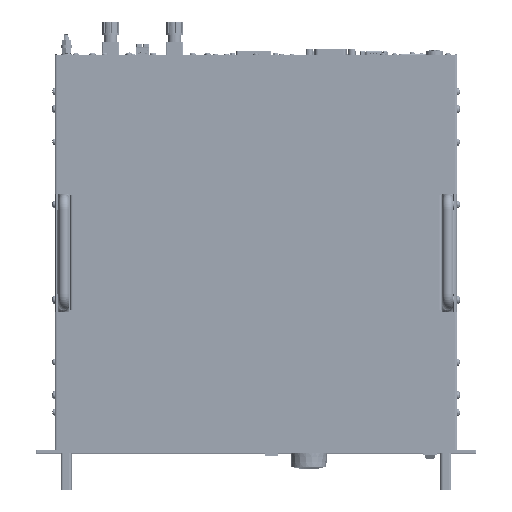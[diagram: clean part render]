
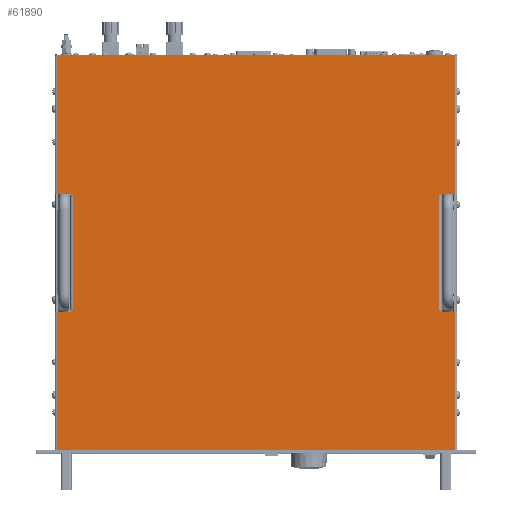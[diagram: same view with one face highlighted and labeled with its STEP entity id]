
A CAD part, top view. The second image highlights one B-rep face of the part: STEP entity #61890.
In plain terms, the highlighted planar face has unit normal (0, 0, 1).
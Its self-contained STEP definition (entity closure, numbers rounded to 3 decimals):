
#61890=ADVANCED_FACE('',(#127787),#127788,.F.);
#127787=FACE_OUTER_BOUND('',#229705,.T.);
#127788=PLANE('',#229706);
#229705=EDGE_LOOP('',(#402301,#402302,#402303,#402304,#402305,#402306,#402307,#402308,#402309,#402310,#402311,#402312,#402313,#402314,#402315,#402316,#402317,#402318,#402319,#402320));
#229706=AXIS2_PLACEMENT_3D('',#402321,#402322,#402323);
#402301=ORIENTED_EDGE('',*,*,#495634,.T.);
#402302=ORIENTED_EDGE('',*,*,#495654,.F.);
#402303=ORIENTED_EDGE('',*,*,#495655,.F.);
#402304=ORIENTED_EDGE('',*,*,#495298,.F.);
#402305=ORIENTED_EDGE('',*,*,#495620,.F.);
#402306=ORIENTED_EDGE('',*,*,#495283,.F.);
#402307=ORIENTED_EDGE('',*,*,#495609,.F.);
#402308=ORIENTED_EDGE('',*,*,#495656,.F.);
#402309=ORIENTED_EDGE('',*,*,#495652,.T.);
#402310=ORIENTED_EDGE('',*,*,#495647,.F.);
#402311=ORIENTED_EDGE('',*,*,#495644,.T.);
#402312=ORIENTED_EDGE('',*,*,#495657,.F.);
#402313=ORIENTED_EDGE('',*,*,#495585,.F.);
#402314=ORIENTED_EDGE('',*,*,#495273,.F.);
#402315=ORIENTED_EDGE('',*,*,#495574,.F.);
#402316=ORIENTED_EDGE('',*,*,#495293,.F.);
#402317=ORIENTED_EDGE('',*,*,#495658,.F.);
#402318=ORIENTED_EDGE('',*,*,#495659,.F.);
#402319=ORIENTED_EDGE('',*,*,#495631,.T.);
#402320=ORIENTED_EDGE('',*,*,#495639,.T.);
#402321=CARTESIAN_POINT('',(239.8,220.125,86.465));
#402322=DIRECTION('',(0.,0.,-1.0));
#402323=DIRECTION('',(1.0,0.,0.));
#495273=EDGE_CURVE('',#600099,#600101,#600102,.T.);
#495283=EDGE_CURVE('',#600117,#600119,#600120,.T.);
#495293=EDGE_CURVE('',#600135,#600137,#600138,.T.);
#495298=EDGE_CURVE('',#600144,#600146,#600147,.T.);
#495574=EDGE_CURVE('',#600137,#600099,#600577,.T.);
#495585=EDGE_CURVE('',#600101,#600592,#600593,.T.);
#495609=EDGE_CURVE('',#600625,#600117,#600627,.T.);
#495620=EDGE_CURVE('',#600119,#600144,#600642,.T.);
#495631=EDGE_CURVE('',#600653,#600656,#600658,.T.);
#495634=EDGE_CURVE('',#600663,#600660,#600664,.T.);
#495639=EDGE_CURVE('',#600656,#600663,#600669,.T.);
#495644=EDGE_CURVE('',#600675,#600673,#600676,.T.);
#495647=EDGE_CURVE('',#600675,#600679,#600680,.T.);
#495652=EDGE_CURVE('',#600685,#600679,#600687,.T.);
#495654=EDGE_CURVE('',#600689,#600660,#600690,.T.);
#495655=EDGE_CURVE('',#600146,#600689,#600691,.T.);
#495656=EDGE_CURVE('',#600685,#600625,#600692,.T.);
#495657=EDGE_CURVE('',#600592,#600673,#600693,.T.);
#495658=EDGE_CURVE('',#600694,#600135,#600695,.T.);
#495659=EDGE_CURVE('',#600653,#600694,#600696,.T.);
#600099=VERTEX_POINT('',#747108);
#600101=VERTEX_POINT('',#747110);
#600102=LINE('',#747111,#747112);
#600117=VERTEX_POINT('',#747130);
#600119=VERTEX_POINT('',#747132);
#600120=LINE('',#747133,#747134);
#600135=VERTEX_POINT('',#747152);
#600137=VERTEX_POINT('',#747154);
#600138=LINE('',#747155,#747156);
#600144=VERTEX_POINT('',#747163);
#600146=VERTEX_POINT('',#747165);
#600147=LINE('',#747166,#747167);
#600577=LINE('',#747718,#747719);
#600592=VERTEX_POINT('',#747739);
#600593=LINE('',#747740,#747741);
#600625=VERTEX_POINT('',#747787);
#600627=LINE('',#747790,#747791);
#600642=LINE('',#747811,#747812);
#600653=VERTEX_POINT('',#747827);
#600656=VERTEX_POINT('',#747831);
#600658=LINE('',#747833,#747834);
#600660=VERTEX_POINT('',#747836);
#600663=VERTEX_POINT('',#747840);
#600664=LINE('',#747841,#747842);
#600669=LINE('',#747847,#747848);
#600673=VERTEX_POINT('',#747853);
#600675=VERTEX_POINT('',#747856);
#600676=LINE('',#747857,#747858);
#600679=VERTEX_POINT('',#747861);
#600680=LINE('',#747862,#747863);
#600685=VERTEX_POINT('',#747868);
#600687=LINE('',#747871,#747872);
#600689=VERTEX_POINT('',#747874);
#600690=LINE('',#747875,#747876);
#600691=LINE('',#747877,#747878);
#600692=LINE('',#747879,#747880);
#600693=LINE('',#747881,#747882);
#600694=VERTEX_POINT('',#747883);
#600695=LINE('',#747884,#747885);
#600696=LINE('',#747886,#747887);
#747108=CARTESIAN_POINT('',(22.123,3.5,86.465));
#747110=CARTESIAN_POINT('',(22.123,155.5,86.465));
#747111=CARTESIAN_POINT('',(22.123,149.813,86.465));
#747112=VECTOR('',#849581,1.0);
#747130=CARTESIAN_POINT('',(22.123,284.75,86.465));
#747132=CARTESIAN_POINT('',(22.123,436.75,86.465));
#747133=CARTESIAN_POINT('',(22.123,290.438,86.465));
#747134=VECTOR('',#849597,1.0);
#747152=CARTESIAN_POINT('',(457.477,155.5,86.465));
#747154=CARTESIAN_POINT('',(457.477,3.5,86.465));
#747155=CARTESIAN_POINT('',(457.477,149.813,86.465));
#747156=VECTOR('',#849613,1.0);
#747163=CARTESIAN_POINT('',(457.477,436.75,86.465));
#747165=CARTESIAN_POINT('',(457.477,284.75,86.465));
#747166=CARTESIAN_POINT('',(457.477,290.438,86.465));
#747167=VECTOR('',#849621,1.0);
#747718=CARTESIAN_POINT('',(460.227,3.5,86.465));
#747719=VECTOR('',#850007,1.0);
#747739=CARTESIAN_POINT('',(37.373,155.5,86.465));
#747740=CARTESIAN_POINT('',(19.373,155.5,86.465));
#747741=VECTOR('',#850025,1.0);
#747787=CARTESIAN_POINT('',(37.373,284.75,86.465));
#747790=CARTESIAN_POINT('',(37.373,284.75,86.465));
#747791=VECTOR('',#850053,1.0);
#747811=CARTESIAN_POINT('',(19.373,436.75,86.465));
#747812=VECTOR('',#850071,1.0);
#747827=CARTESIAN_POINT('',(442.227,157.5,86.465));
#747831=CARTESIAN_POINT('',(440.477,157.5,86.465));
#747833=CARTESIAN_POINT('',(341.093,157.5,86.465));
#747834=VECTOR('',#850083,1.0);
#747836=CARTESIAN_POINT('',(442.227,282.75,86.465));
#747840=CARTESIAN_POINT('',(440.477,282.75,86.465));
#747841=CARTESIAN_POINT('',(341.093,282.75,86.465));
#747842=VECTOR('',#850085,1.0);
#747847=CARTESIAN_POINT('',(440.477,220.125,86.465));
#747848=VECTOR('',#850095,1.0);
#747853=CARTESIAN_POINT('',(37.373,157.5,86.465));
#747856=CARTESIAN_POINT('',(39.123,157.5,86.465));
#747857=CARTESIAN_POINT('',(138.507,157.5,86.465));
#747858=VECTOR('',#850098,1.0);
#747861=CARTESIAN_POINT('',(39.123,282.75,86.465));
#747862=CARTESIAN_POINT('',(39.123,220.125,86.465));
#747863=VECTOR('',#850102,1.0);
#747868=CARTESIAN_POINT('',(37.373,282.75,86.465));
#747871=CARTESIAN_POINT('',(138.507,282.75,86.465));
#747872=VECTOR('',#850110,1.0);
#747874=CARTESIAN_POINT('',(442.227,284.75,86.465));
#747875=CARTESIAN_POINT('',(442.227,284.75,86.465));
#747876=VECTOR('',#850111,1.0);
#747877=CARTESIAN_POINT('',(460.227,284.75,86.465));
#747878=VECTOR('',#850112,1.0);
#747879=CARTESIAN_POINT('',(37.373,282.75,86.465));
#747880=VECTOR('',#850113,1.0);
#747881=CARTESIAN_POINT('',(37.373,155.5,86.465));
#747882=VECTOR('',#850114,1.0);
#747883=CARTESIAN_POINT('',(442.227,155.5,86.465));
#747884=CARTESIAN_POINT('',(442.227,155.5,86.465));
#747885=VECTOR('',#850115,1.0);
#747886=CARTESIAN_POINT('',(442.227,157.5,86.465));
#747887=VECTOR('',#850116,1.0);
#849581=DIRECTION('',(0.0,1.0,0.));
#849597=DIRECTION('',(0.0,1.0,0.));
#849613=DIRECTION('',(0.0,-1.0,0.));
#849621=DIRECTION('',(0.0,-1.0,0.));
#850007=DIRECTION('',(-1.0,0.0,0.));
#850025=DIRECTION('',(1.0,0.0,0.0));
#850053=DIRECTION('',(-1.0,0.0,0.0));
#850071=DIRECTION('',(1.0,0.0,0.0));
#850083=DIRECTION('',(-1.0,0.0,0.0));
#850085=DIRECTION('',(1.0,0.0,0.0));
#850095=DIRECTION('',(0.0,1.0,0.));
#850098=DIRECTION('',(-1.0,0.0,0.0));
#850102=DIRECTION('',(0.0,1.0,0.));
#850110=DIRECTION('',(1.0,0.0,0.0));
#850111=DIRECTION('',(0.0,-1.0,0.));
#850112=DIRECTION('',(-1.0,0.0,0.0));
#850113=DIRECTION('',(0.0,1.0,0.));
#850114=DIRECTION('',(0.0,1.0,0.));
#850115=DIRECTION('',(1.0,0.0,0.0));
#850116=DIRECTION('',(0.0,-1.0,0.));
